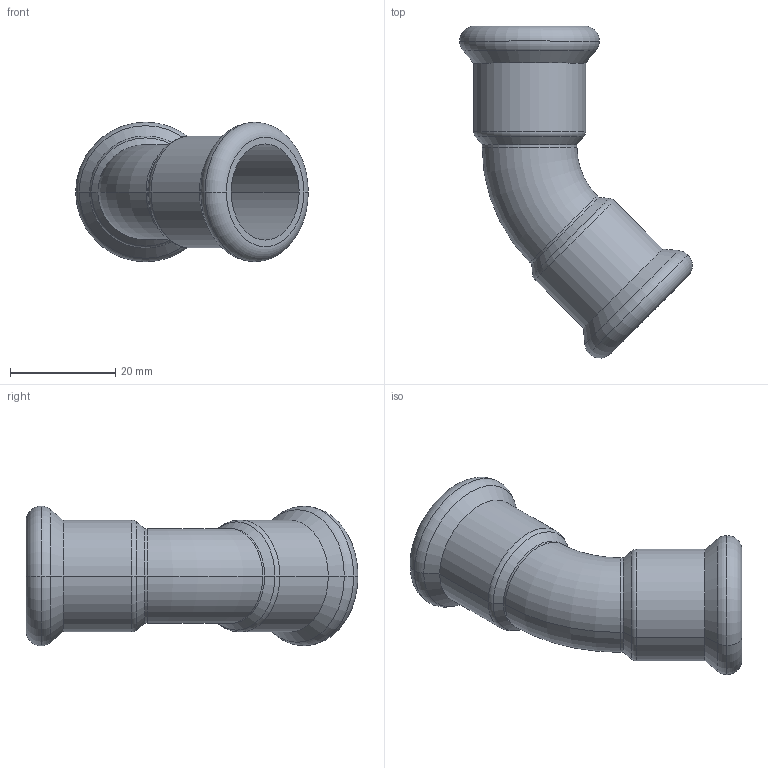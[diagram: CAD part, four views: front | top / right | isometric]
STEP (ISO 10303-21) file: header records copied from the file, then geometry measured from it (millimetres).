
FILE_DESCRIPTION(('CoCreate Modeling STEP Export'),'2;1');
FILE_NAME('C1413 18x18.stp','2014-11-11T16:47:41',(''),(''),'CoCreate Modeling STEP processor for AP214 (Solid Model)','CoCreate Modeling 17.00A 17-Jun-2010 (C) Parametric Technology GmbH','');
FILE_SCHEMA(('AUTOMOTIVE_DESIGN { 1 0 10303 214 1 1 1 1 }'));
Length unit declared in the file: millimetre
Products named in the file (2): C1413_18x18
Assembly tree (1 placements, depth 2):
  C1413_18x18
    C1413_18x18
Bounding box: 44.13 x 62.98 x 26.5 mm (x, y, z)
Volume: 7313.4 mm3; surface area: 8447.7 mm2
Topology: 1 solids, 1 shells, 50 faces, 104 edges, 60 vertices
Faces by surface type: cylinder 20, torus 16, cone 8, plane 6
Entity records: 1119 total; most frequent: ORIENTED_EDGE 208, DIRECTION 176, CARTESIAN_POINT 162, EDGE_CURVE 104, AXIS2_PLACEMENT_3D 74, VERTEX_POINT 60, EDGE_LOOP 56, FACE_OUTER_BOUND 50
